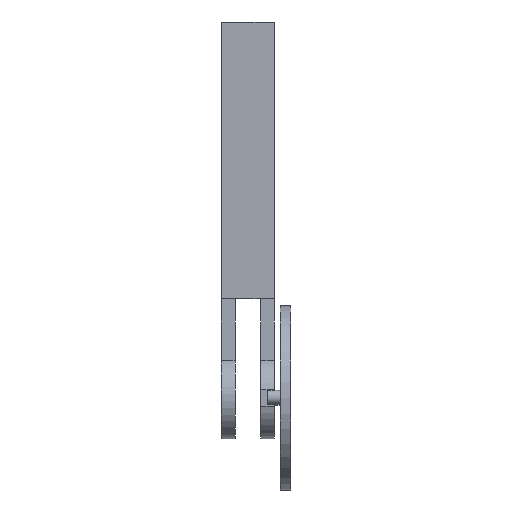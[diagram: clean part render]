
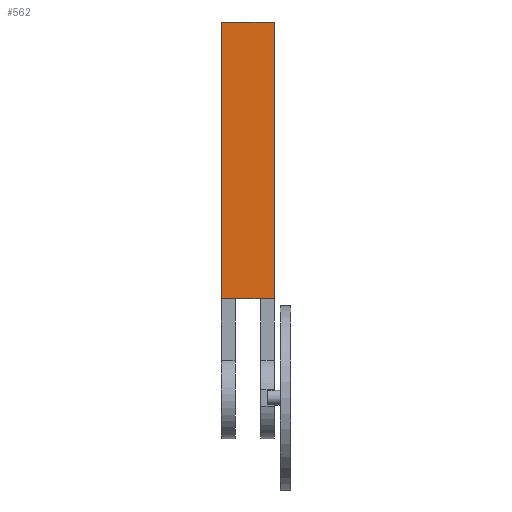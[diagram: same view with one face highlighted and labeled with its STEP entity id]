
A CAD part, front view. The second image highlights one B-rep face of the part: STEP entity #562.
In plain terms, the highlighted planar face has unit normal (0, -1, 0).
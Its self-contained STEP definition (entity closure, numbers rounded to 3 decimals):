
#271 = PLANE('',#272);
#272 = AXIS2_PLACEMENT_3D('',#273,#274,#275);
#273 = CARTESIAN_POINT('',(-15.5,-12.,58.));
#274 = DIRECTION('',(0.,0.,1.));
#275 = DIRECTION('',(1.,0.,0.));
#286 = VERTEX_POINT('',#287);
#287 = CARTESIAN_POINT('',(-15.5,-12.,58.));
#303 = PLANE('',#304);
#304 = AXIS2_PLACEMENT_3D('',#305,#306,#307);
#305 = CARTESIAN_POINT('',(-15.5,-12.,58.));
#306 = DIRECTION('',(1.,0.,0.));
#307 = DIRECTION('',(0.,0.,1.));
#315 = EDGE_CURVE('',#286,#316,#318,.T.);
#316 = VERTEX_POINT('',#317);
#317 = CARTESIAN_POINT('',(15.5,-12.,58.));
#318 = SURFACE_CURVE('',#319,(#323,#330),.PCURVE_S1.);
#319 = LINE('',#320,#321);
#320 = CARTESIAN_POINT('',(-15.5,-12.,58.));
#321 = VECTOR('',#322,1.);
#322 = DIRECTION('',(1.,0.,0.));
#323 = PCURVE('',#271,#324);
#324 = DEFINITIONAL_REPRESENTATION('',(#325),#329);
#325 = LINE('',#326,#327);
#326 = CARTESIAN_POINT('',(0.,0.));
#327 = VECTOR('',#328,1.);
#328 = DIRECTION('',(1.,0.));
#329 = ( GEOMETRIC_REPRESENTATION_CONTEXT(2) 
PARAMETRIC_REPRESENTATION_CONTEXT() REPRESENTATION_CONTEXT('2D SPACE',''
  ) );
#330 = PCURVE('',#331,#336);
#331 = PLANE('',#332);
#332 = AXIS2_PLACEMENT_3D('',#333,#334,#335);
#333 = CARTESIAN_POINT('',(-15.5,-12.,58.));
#334 = DIRECTION('',(0.,1.,0.));
#335 = DIRECTION('',(0.,0.,1.));
#336 = DEFINITIONAL_REPRESENTATION('',(#337),#341);
#337 = LINE('',#338,#339);
#338 = CARTESIAN_POINT('',(0.,0.));
#339 = VECTOR('',#340,1.);
#340 = DIRECTION('',(0.,1.));
#341 = ( GEOMETRIC_REPRESENTATION_CONTEXT(2) 
PARAMETRIC_REPRESENTATION_CONTEXT() REPRESENTATION_CONTEXT('2D SPACE',''
  ) );
#359 = PLANE('',#360);
#360 = AXIS2_PLACEMENT_3D('',#361,#362,#363);
#361 = CARTESIAN_POINT('',(15.5,0.,0.));
#362 = DIRECTION('',(1.,0.,0.));
#363 = DIRECTION('',(-0.,0.,1.));
#562 = ADVANCED_FACE('',(#563),#331,.F.);
#563 = FACE_BOUND('',#564,.F.);
#564 = EDGE_LOOP('',(#565,#566,#589,#617));
#565 = ORIENTED_EDGE('',*,*,#315,.F.);
#566 = ORIENTED_EDGE('',*,*,#567,.T.);
#567 = EDGE_CURVE('',#286,#568,#570,.T.);
#568 = VERTEX_POINT('',#569);
#569 = CARTESIAN_POINT('',(-15.5,-12.,220.));
#570 = SURFACE_CURVE('',#571,(#575,#582),.PCURVE_S1.);
#571 = LINE('',#572,#573);
#572 = CARTESIAN_POINT('',(-15.5,-12.,58.));
#573 = VECTOR('',#574,1.);
#574 = DIRECTION('',(0.,0.,1.));
#575 = PCURVE('',#331,#576);
#576 = DEFINITIONAL_REPRESENTATION('',(#577),#581);
#577 = LINE('',#578,#579);
#578 = CARTESIAN_POINT('',(0.,0.));
#579 = VECTOR('',#580,1.);
#580 = DIRECTION('',(1.,0.));
#581 = ( GEOMETRIC_REPRESENTATION_CONTEXT(2) 
PARAMETRIC_REPRESENTATION_CONTEXT() REPRESENTATION_CONTEXT('2D SPACE',''
  ) );
#582 = PCURVE('',#303,#583);
#583 = DEFINITIONAL_REPRESENTATION('',(#584),#588);
#584 = LINE('',#585,#586);
#585 = CARTESIAN_POINT('',(0.,0.));
#586 = VECTOR('',#587,1.);
#587 = DIRECTION('',(1.,0.));
#588 = ( GEOMETRIC_REPRESENTATION_CONTEXT(2) 
PARAMETRIC_REPRESENTATION_CONTEXT() REPRESENTATION_CONTEXT('2D SPACE',''
  ) );
#589 = ORIENTED_EDGE('',*,*,#590,.T.);
#590 = EDGE_CURVE('',#568,#591,#593,.T.);
#591 = VERTEX_POINT('',#592);
#592 = CARTESIAN_POINT('',(15.5,-12.,220.));
#593 = SURFACE_CURVE('',#594,(#598,#605),.PCURVE_S1.);
#594 = LINE('',#595,#596);
#595 = CARTESIAN_POINT('',(-15.5,-12.,220.));
#596 = VECTOR('',#597,1.);
#597 = DIRECTION('',(1.,0.,0.));
#598 = PCURVE('',#331,#599);
#599 = DEFINITIONAL_REPRESENTATION('',(#600),#604);
#600 = LINE('',#601,#602);
#601 = CARTESIAN_POINT('',(162.,0.));
#602 = VECTOR('',#603,1.);
#603 = DIRECTION('',(0.,1.));
#604 = ( GEOMETRIC_REPRESENTATION_CONTEXT(2) 
PARAMETRIC_REPRESENTATION_CONTEXT() REPRESENTATION_CONTEXT('2D SPACE',''
  ) );
#605 = PCURVE('',#606,#611);
#606 = PLANE('',#607);
#607 = AXIS2_PLACEMENT_3D('',#608,#609,#610);
#608 = CARTESIAN_POINT('',(-15.5,-12.,220.));
#609 = DIRECTION('',(0.,0.,1.));
#610 = DIRECTION('',(1.,0.,0.));
#611 = DEFINITIONAL_REPRESENTATION('',(#612),#616);
#612 = LINE('',#613,#614);
#613 = CARTESIAN_POINT('',(0.,0.));
#614 = VECTOR('',#615,1.);
#615 = DIRECTION('',(1.,0.));
#616 = ( GEOMETRIC_REPRESENTATION_CONTEXT(2) 
PARAMETRIC_REPRESENTATION_CONTEXT() REPRESENTATION_CONTEXT('2D SPACE',''
  ) );
#617 = ORIENTED_EDGE('',*,*,#618,.F.);
#618 = EDGE_CURVE('',#316,#591,#619,.T.);
#619 = SURFACE_CURVE('',#620,(#624,#631),.PCURVE_S1.);
#620 = LINE('',#621,#622);
#621 = CARTESIAN_POINT('',(15.5,-12.,58.));
#622 = VECTOR('',#623,1.);
#623 = DIRECTION('',(0.,0.,1.));
#624 = PCURVE('',#331,#625);
#625 = DEFINITIONAL_REPRESENTATION('',(#626),#630);
#626 = LINE('',#627,#628);
#627 = CARTESIAN_POINT('',(0.,31.));
#628 = VECTOR('',#629,1.);
#629 = DIRECTION('',(1.,0.));
#630 = ( GEOMETRIC_REPRESENTATION_CONTEXT(2) 
PARAMETRIC_REPRESENTATION_CONTEXT() REPRESENTATION_CONTEXT('2D SPACE',''
  ) );
#631 = PCURVE('',#359,#632);
#632 = DEFINITIONAL_REPRESENTATION('',(#633),#637);
#633 = LINE('',#634,#635);
#634 = CARTESIAN_POINT('',(58.,12.));
#635 = VECTOR('',#636,1.);
#636 = DIRECTION('',(1.,0.));
#637 = ( GEOMETRIC_REPRESENTATION_CONTEXT(2) 
PARAMETRIC_REPRESENTATION_CONTEXT() REPRESENTATION_CONTEXT('2D SPACE',''
  ) );
